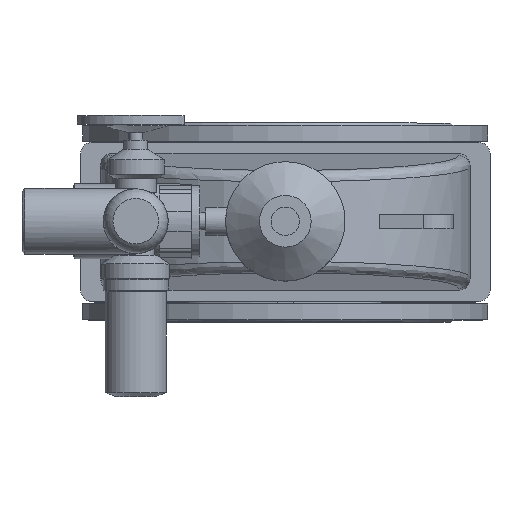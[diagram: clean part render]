
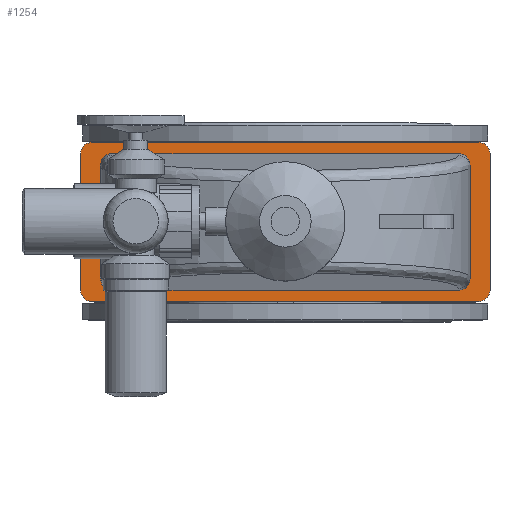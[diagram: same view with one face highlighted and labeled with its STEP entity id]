
A CAD part, top view. The second image highlights one B-rep face of the part: STEP entity #1254.
In plain terms, the highlighted planar face has unit normal (0, 0, 1).
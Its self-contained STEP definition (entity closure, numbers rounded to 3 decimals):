
#1254=ADVANCED_FACE('',(#5720,#5722),#5724,.T.);
#5720=FACE_BOUND('',#5721,.T.);
#5721=EDGE_LOOP('',(#10040,#10041,#10042,#10043,#10044,#10045,#10046,#10047));
#5722=FACE_BOUND('',#5723,.T.);
#5723=EDGE_LOOP('',(#10048,#10049,#10050,#10051,#10052,#10053,#10054,#10055));
#5724=PLANE('',#5725);
#5725=AXIS2_PLACEMENT_3D('',#5726,#5727,#5728);
#5726=CARTESIAN_POINT('',(0.,0.,746.));
#5727=DIRECTION('',(0.,-0.,1.));
#5728=DIRECTION('',(0.,1.,0.));
#10040=ORIENTED_EDGE('',*,*,#11952,.F.);
#10041=ORIENTED_EDGE('',*,*,#11953,.T.);
#10042=ORIENTED_EDGE('',*,*,#11954,.F.);
#10043=ORIENTED_EDGE('',*,*,#11955,.T.);
#10044=ORIENTED_EDGE('',*,*,#11956,.F.);
#10045=ORIENTED_EDGE('',*,*,#11957,.T.);
#10046=ORIENTED_EDGE('',*,*,#11958,.F.);
#10047=ORIENTED_EDGE('',*,*,#11959,.T.);
#10048=ORIENTED_EDGE('',*,*,#11950,.F.);
#10049=ORIENTED_EDGE('',*,*,#11949,.F.);
#10050=ORIENTED_EDGE('',*,*,#11951,.F.);
#10051=ORIENTED_EDGE('',*,*,#11926,.F.);
#10052=ORIENTED_EDGE('',*,*,#11960,.F.);
#10053=ORIENTED_EDGE('',*,*,#11961,.F.);
#10054=ORIENTED_EDGE('',*,*,#11962,.F.);
#10055=ORIENTED_EDGE('',*,*,#11919,.F.);
#11919=EDGE_CURVE('',#13177,#13179,#13180,.T.);
#11926=EDGE_CURVE('',#13189,#13187,#13191,.T.);
#11949=EDGE_CURVE('',#13226,#13224,#13228,.T.);
#11950=EDGE_CURVE('',#13224,#13177,#13229,.F.);
#11951=EDGE_CURVE('',#13187,#13226,#13230,.T.);
#11952=EDGE_CURVE('',#13231,#13232,#13233,.F.);
#11953=EDGE_CURVE('',#13231,#13234,#13235,.T.);
#11954=EDGE_CURVE('',#13236,#13234,#13237,.F.);
#11955=EDGE_CURVE('',#13236,#13238,#13239,.T.);
#11956=EDGE_CURVE('',#13240,#13238,#13241,.F.);
#11957=EDGE_CURVE('',#13240,#13242,#13243,.T.);
#11958=EDGE_CURVE('',#13244,#13242,#13245,.F.);
#11959=EDGE_CURVE('',#13244,#13232,#13246,.T.);
#11960=EDGE_CURVE('',#13247,#13189,#13248,.F.);
#11961=EDGE_CURVE('',#13249,#13247,#13250,.T.);
#11962=EDGE_CURVE('',#13179,#13249,#13251,.T.);
#13177=VERTEX_POINT('',#16800);
#13179=VERTEX_POINT('',#16804);
#13180=LINE('',#16805,#16806);
#13187=VERTEX_POINT('',#16825);
#13189=VERTEX_POINT('',#16829);
#13191=LINE('',#16833,#16834);
#13224=VERTEX_POINT('',#16916);
#13226=VERTEX_POINT('',#16920);
#13228=LINE('',#16924,#16925);
#13229=(BOUNDED_CURVE()B_SPLINE_CURVE(3,
(#16927,#16928,#16929,#16930),
.UNSPECIFIED.,.F.,.F.)B_SPLINE_CURVE_WITH_KNOTS((4,4),
(0.,1.),
.UNSPECIFIED.)CURVE()GEOMETRIC_REPRESENTATION_ITEM()RATIONAL_B_SPLINE_CURVE((1.,
0.805,0.805,1.))REPRESENTATION_ITEM(''));
#13230=(BOUNDED_CURVE()B_SPLINE_CURVE(3,
(#16931,#16932,#16933,#16934),
.UNSPECIFIED.,.F.,.F.)B_SPLINE_CURVE_WITH_KNOTS((4,4),
(0.,1.),
.UNSPECIFIED.)CURVE()GEOMETRIC_REPRESENTATION_ITEM()RATIONAL_B_SPLINE_CURVE((1.,
0.805,0.805,1.))REPRESENTATION_ITEM(''));
#13231=VERTEX_POINT('',#16935);
#13232=VERTEX_POINT('',#16936);
#13233=CIRCLE('',#16937,20.);
#13234=VERTEX_POINT('',#16941);
#13235=LINE('',#16942,#16943);
#13236=VERTEX_POINT('',#16945);
#13237=CIRCLE('',#16946,20.);
#13238=VERTEX_POINT('',#16950);
#13239=LINE('',#16951,#16952);
#13240=VERTEX_POINT('',#16954);
#13241=CIRCLE('',#16955,20.);
#13242=VERTEX_POINT('',#16959);
#13243=LINE('',#16960,#16961);
#13244=VERTEX_POINT('',#16963);
#13245=CIRCLE('',#16964,20.);
#13246=LINE('',#16968,#16969);
#13247=VERTEX_POINT('',#16971);
#13248=(BOUNDED_CURVE()B_SPLINE_CURVE(3,
(#16972,#16973,#16974,#16975),
.UNSPECIFIED.,.F.,.F.)B_SPLINE_CURVE_WITH_KNOTS((4,4),
(0.,1.),
.UNSPECIFIED.)CURVE()GEOMETRIC_REPRESENTATION_ITEM()RATIONAL_B_SPLINE_CURVE((1.,
0.805,0.805,1.))REPRESENTATION_ITEM(''));
#13249=VERTEX_POINT('',#16976);
#13250=LINE('',#16977,#16978);
#13251=(BOUNDED_CURVE()B_SPLINE_CURVE(3,
(#16980,#16981,#16982,#16983),
.UNSPECIFIED.,.F.,.F.)B_SPLINE_CURVE_WITH_KNOTS((4,4),
(0.,1.),
.UNSPECIFIED.)CURVE()GEOMETRIC_REPRESENTATION_ITEM()RATIONAL_B_SPLINE_CURVE((1.,
0.805,0.805,1.))REPRESENTATION_ITEM(''));
#16800=CARTESIAN_POINT('',(325.,-99.924,746.));
#16804=CARTESIAN_POINT('',(325.,99.924,746.));
#16805=CARTESIAN_POINT('',(325.,-99.924,746.));
#16806=VECTOR('',#16807,1.);
#16807=DIRECTION('',(0.,1.,0.));
#16825=CARTESIAN_POINT('',(-325.,-99.924,746.));
#16829=CARTESIAN_POINT('',(-325.,99.924,746.));
#16833=CARTESIAN_POINT('',(-325.,99.924,746.));
#16834=VECTOR('',#16835,1.);
#16835=DIRECTION('',(0.,-1.,0.));
#16916=CARTESIAN_POINT('',(305.,-120.,746.));
#16920=CARTESIAN_POINT('',(-305.,-120.,746.));
#16924=CARTESIAN_POINT('',(-305.,-120.,746.));
#16925=VECTOR('',#16926,1.);
#16926=DIRECTION('',(1.,0.,0.));
#16927=CARTESIAN_POINT('',(325.,-99.924,746.));
#16928=CARTESIAN_POINT('',(325.,-111.684,746.));
#16929=CARTESIAN_POINT('',(316.716,-120.,746.));
#16930=CARTESIAN_POINT('',(305.,-120.,746.));
#16931=CARTESIAN_POINT('',(-325.,-99.924,746.));
#16932=CARTESIAN_POINT('',(-325.,-111.684,746.));
#16933=CARTESIAN_POINT('',(-316.716,-120.,746.));
#16934=CARTESIAN_POINT('',(-305.,-120.,746.));
#16935=CARTESIAN_POINT('',(-340.,-140.,746.));
#16936=CARTESIAN_POINT('',(-360.,-120.,746.));
#16937=AXIS2_PLACEMENT_3D('',#16938,#16939,#16940);
#16938=CARTESIAN_POINT('',(-340.,-120.,746.));
#16939=DIRECTION('',(0.,-0.,1.));
#16940=DIRECTION('',(-1.,0.,0.));
#16941=CARTESIAN_POINT('',(340.,-140.,746.));
#16942=CARTESIAN_POINT('',(-340.,-140.,746.));
#16943=VECTOR('',#16944,1.);
#16944=DIRECTION('',(1.,0.,0.));
#16945=CARTESIAN_POINT('',(360.,-120.,746.));
#16946=AXIS2_PLACEMENT_3D('',#16947,#16948,#16949);
#16947=CARTESIAN_POINT('',(340.,-120.,746.));
#16948=DIRECTION('',(0.,-0.,1.));
#16949=DIRECTION('',(0.,-1.,0.));
#16950=CARTESIAN_POINT('',(360.,120.,746.));
#16951=CARTESIAN_POINT('',(360.,-120.,746.));
#16952=VECTOR('',#16953,1.);
#16953=DIRECTION('',(0.,1.,0.));
#16954=CARTESIAN_POINT('',(340.,140.,746.));
#16955=AXIS2_PLACEMENT_3D('',#16956,#16957,#16958);
#16956=CARTESIAN_POINT('',(340.,120.,746.));
#16957=DIRECTION('',(0.,-0.,1.));
#16958=DIRECTION('',(1.,0.,0.));
#16959=CARTESIAN_POINT('',(-340.,140.,746.));
#16960=CARTESIAN_POINT('',(340.,140.,746.));
#16961=VECTOR('',#16962,1.);
#16962=DIRECTION('',(-1.,0.,0.));
#16963=CARTESIAN_POINT('',(-360.,120.,746.));
#16964=AXIS2_PLACEMENT_3D('',#16965,#16966,#16967);
#16965=CARTESIAN_POINT('',(-340.,120.,746.));
#16966=DIRECTION('',(0.,-0.,1.));
#16967=DIRECTION('',(0.,1.,0.));
#16968=CARTESIAN_POINT('',(-360.,120.,746.));
#16969=VECTOR('',#16970,1.);
#16970=DIRECTION('',(0.,-1.,0.));
#16971=CARTESIAN_POINT('',(-305.,120.,746.));
#16972=CARTESIAN_POINT('',(-325.,99.924,746.));
#16973=CARTESIAN_POINT('',(-325.,111.684,746.));
#16974=CARTESIAN_POINT('',(-316.716,120.,746.));
#16975=CARTESIAN_POINT('',(-305.,120.,746.));
#16976=CARTESIAN_POINT('',(305.,120.,746.));
#16977=CARTESIAN_POINT('',(305.,120.,746.));
#16978=VECTOR('',#16979,1.);
#16979=DIRECTION('',(-1.,0.,0.));
#16980=CARTESIAN_POINT('',(325.,99.924,746.));
#16981=CARTESIAN_POINT('',(325.,111.684,746.));
#16982=CARTESIAN_POINT('',(316.716,120.,746.));
#16983=CARTESIAN_POINT('',(305.,120.,746.));
